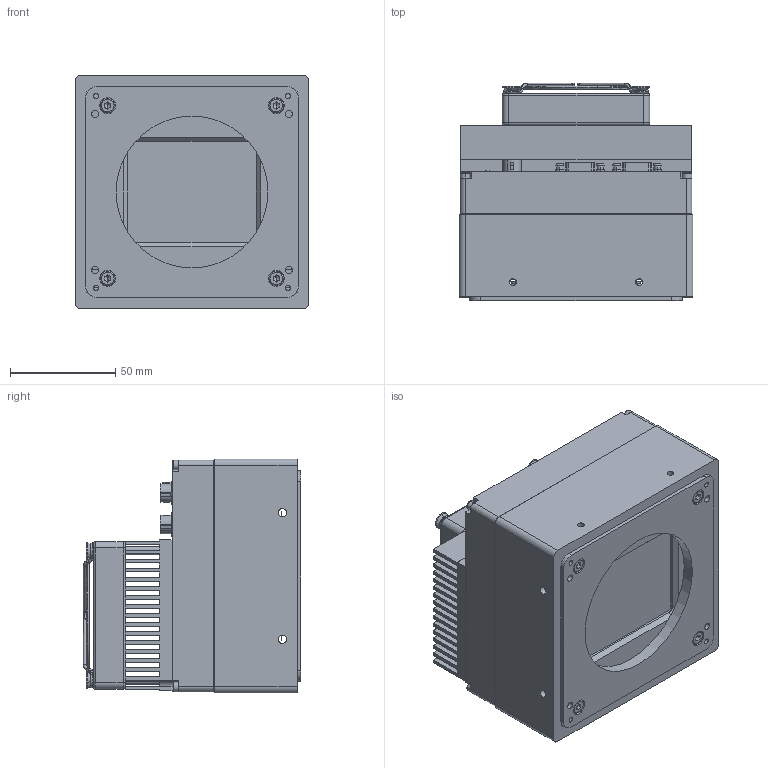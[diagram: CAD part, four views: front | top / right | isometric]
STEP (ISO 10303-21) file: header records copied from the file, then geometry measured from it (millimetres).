
FILE_DESCRIPTION (( 'STEP AP203' ), '1' );
FILE_NAME ('TTS151M2CL-5M-A01-V1.2.0-三维模型.STEP', '2022-12-20T02:45:00', ( '微软用户' ), ( '微软中国' ), 'SwSTEP 2.0', 'SolidWorks 2017', '' );
FILE_SCHEMA (( 'CONFIG_CONTROL_DESIGN' ));
Length unit declared in the file: millimetre
Products named in the file (1): TTS151M2CL-5M-A01-V1.2.0-三维模型
Bounding box: 111 x 103.17 x 111 mm (x, y, z)
Surface area: 140291 mm2 (no closed solid volume)
Topology: 0 solids, 80 shells, 887 faces, 3301 edges, 2446 vertices
Faces by surface type: plane 436, cylinder 300, bspline 64, cone 52, torus 24, sphere 11
Entity records: 38227 total; most frequent: CARTESIAN_POINT 10964, DIRECTION 5622, ORIENTED_EDGE 4989, EDGE_CURVE 3262, VERTEX_POINT 2434, LINE 2078, VECTOR 2078, AXIS2_PLACEMENT_3D 1772
